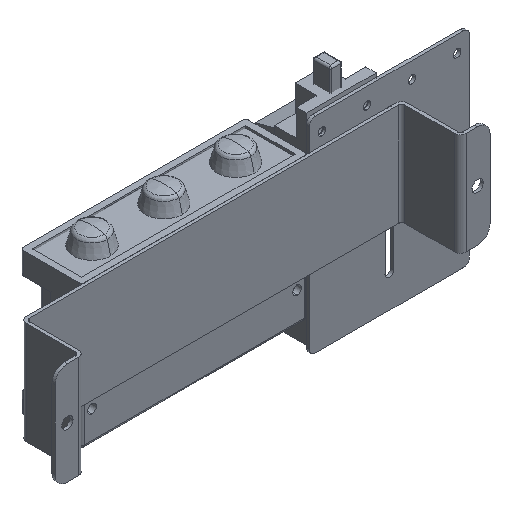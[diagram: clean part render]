
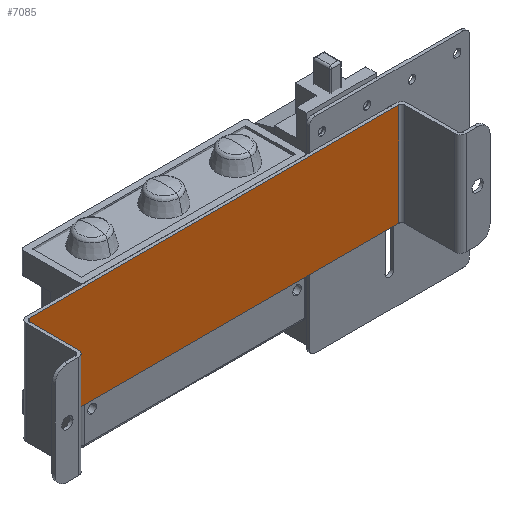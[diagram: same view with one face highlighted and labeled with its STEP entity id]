
A CAD part, isometric view. The second image highlights one B-rep face of the part: STEP entity #7085.
In plain terms, the highlighted planar face has unit normal (0, -1, 0).
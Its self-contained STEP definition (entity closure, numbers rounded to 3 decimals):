
#232 = AXIS2_PLACEMENT_3D ( 'NONE', #9889, #3686, #9120 ) ;
#402 = VERTEX_POINT ( 'NONE', #2880 ) ;
#771 = ORIENTED_EDGE ( 'NONE', *, *, #9894, .F. ) ;
#897 = DIRECTION ( 'NONE',  ( 1., 0., 0. ) ) ;
#1175 = ORIENTED_EDGE ( 'NONE', *, *, #6392, .F. ) ;
#1182 = EDGE_CURVE ( 'NONE', #1837, #402, #8725, .T. ) ;
#1345 = CARTESIAN_POINT ( 'NONE',  ( 90., 28.5, -25. ) ) ;
#1524 = FACE_OUTER_BOUND ( 'NONE', #8477, .T. ) ;
#1837 = VERTEX_POINT ( 'NONE', #9131 ) ;
#2447 = LINE ( 'NONE', #6699, #3796 ) ;
#2880 = CARTESIAN_POINT ( 'NONE',  ( -90., 28.5, -25. ) ) ;
#3125 = VECTOR ( 'NONE', #4680, 1000. ) ;
#3215 = CARTESIAN_POINT ( 'NONE',  ( -90., 28.5, 25. ) ) ;
#3686 = DIRECTION ( 'NONE',  ( 0., 1., 0. ) ) ;
#3796 = VECTOR ( 'NONE', #7466, 1000. ) ;
#4428 = PLANE ( 'NONE',  #232 ) ;
#4680 = DIRECTION ( 'NONE',  ( 0., 0., -1. ) ) ;
#4733 = ORIENTED_EDGE ( 'NONE', *, *, #6452, .T. ) ;
#4775 = LINE ( 'NONE', #3215, #6594 ) ;
#4859 = DIRECTION ( 'NONE',  ( 0., 0., -1. ) ) ;
#5341 = CARTESIAN_POINT ( 'NONE',  ( -90., 28.5, 25. ) ) ;
#6392 = EDGE_CURVE ( 'NONE', #1837, #9593, #4775, .T. ) ;
#6452 = EDGE_CURVE ( 'NONE', #402, #8019, #2447, .T. ) ;
#6594 = VECTOR ( 'NONE', #897, 1000. ) ;
#6620 = CARTESIAN_POINT ( 'NONE',  ( 90., 28.5, 25. ) ) ;
#6660 = VECTOR ( 'NONE', #4859, 1000. ) ;
#6699 = CARTESIAN_POINT ( 'NONE',  ( -90., 28.5, -25. ) ) ;
#7085 = ADVANCED_FACE ( 'NONE', ( #1524 ), #4428, .F. ) ;
#7259 = LINE ( 'NONE', #9334, #3125 ) ;
#7466 = DIRECTION ( 'NONE',  ( 1., 0., 0. ) ) ;
#8019 = VERTEX_POINT ( 'NONE', #1345 ) ;
#8477 = EDGE_LOOP ( 'NONE', ( #4733, #771, #1175, #9733 ) ) ;
#8725 = LINE ( 'NONE', #5341, #6660 ) ;
#9120 = DIRECTION ( 'NONE',  ( 0., 0., 1. ) ) ;
#9131 = CARTESIAN_POINT ( 'NONE',  ( -90., 28.5, 25. ) ) ;
#9334 = CARTESIAN_POINT ( 'NONE',  ( 90., 28.5, 25. ) ) ;
#9593 = VERTEX_POINT ( 'NONE', #6620 ) ;
#9733 = ORIENTED_EDGE ( 'NONE', *, *, #1182, .T. ) ;
#9889 = CARTESIAN_POINT ( 'NONE',  ( -90., 28.5, 25. ) ) ;
#9894 = EDGE_CURVE ( 'NONE', #9593, #8019, #7259, .T. ) ;
